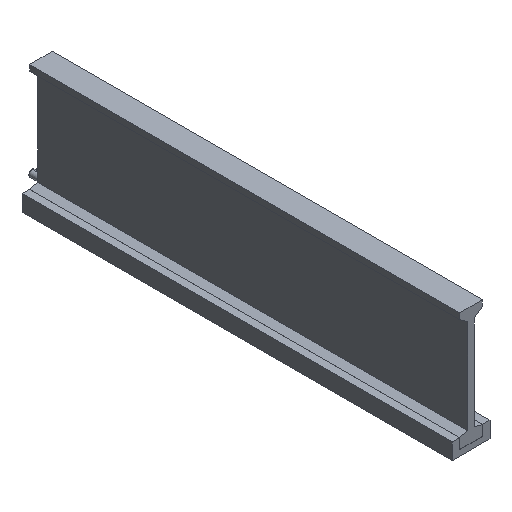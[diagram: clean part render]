
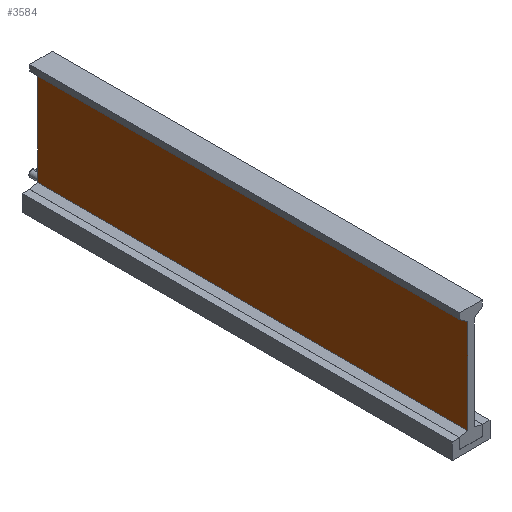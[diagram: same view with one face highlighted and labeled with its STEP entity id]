
A CAD part, isometric view. The second image highlights one B-rep face of the part: STEP entity #3584.
In plain terms, the highlighted planar face has unit normal (-1, 0, 0) as drawn and (1, 0, 0) by its records, which use the part's own axes.
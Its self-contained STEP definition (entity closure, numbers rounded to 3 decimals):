
#102 = EDGE_CURVE ( 'NONE', #2693, #2911, #2996, .T. ) ;
#664 = VECTOR ( 'NONE', #6174, 1000. ) ;
#759 = DIRECTION ( 'NONE',  ( 0., 1., 0. ) ) ;
#983 = DIRECTION ( 'NONE',  ( 0., 0., -1. ) ) ;
#1101 = CARTESIAN_POINT ( 'NONE',  ( 21.35, 17.11, 625. ) ) ;
#1152 = FACE_OUTER_BOUND ( 'NONE', #5078, .T. ) ;
#1434 = DIRECTION ( 'NONE',  ( 0., 0., 1. ) ) ;
#2241 = VERTEX_POINT ( 'NONE', #4289 ) ;
#2259 = CARTESIAN_POINT ( 'NONE',  ( 21.35, 154.11, 0. ) ) ;
#2428 = CARTESIAN_POINT ( 'NONE',  ( 21.35, 17.11, 625. ) ) ;
#2569 = EDGE_CURVE ( 'NONE', #2241, #5300, #4709, .T. ) ;
#2632 = DIRECTION ( 'NONE',  ( -1., 0., 0. ) ) ;
#2693 = VERTEX_POINT ( 'NONE', #4877 ) ;
#2731 = EDGE_CURVE ( 'NONE', #2693, #2241, #3048, .T. ) ;
#2911 = VERTEX_POINT ( 'NONE', #6911 ) ;
#2923 = DIRECTION ( 'NONE',  ( 0., 1., 0. ) ) ;
#2996 = LINE ( 'NONE', #4273, #664 ) ;
#3048 = LINE ( 'NONE', #1101, #4930 ) ;
#3295 = CARTESIAN_POINT ( 'NONE',  ( 21.35, 17.11, 0. ) ) ;
#3584 = ADVANCED_FACE ( 'NONE', ( #1152 ), #8080, .F. ) ;
#3949 = ORIENTED_EDGE ( 'NONE', *, *, #6253, .T. ) ;
#4034 = CARTESIAN_POINT ( 'NONE',  ( 21.35, 154.11, 625. ) ) ;
#4273 = CARTESIAN_POINT ( 'NONE',  ( 21.35, 17.11, 625. ) ) ;
#4289 = CARTESIAN_POINT ( 'NONE',  ( 21.35, 154.11, 625. ) ) ;
#4709 = LINE ( 'NONE', #4034, #5705 ) ;
#4877 = CARTESIAN_POINT ( 'NONE',  ( 21.35, 17.11, 625. ) ) ;
#4930 = VECTOR ( 'NONE', #2923, 1000. ) ;
#5020 = ORIENTED_EDGE ( 'NONE', *, *, #2731, .F. ) ;
#5078 = EDGE_LOOP ( 'NONE', ( #3949, #7796, #5020, #5183 ) ) ;
#5183 = ORIENTED_EDGE ( 'NONE', *, *, #102, .T. ) ;
#5300 = VERTEX_POINT ( 'NONE', #2259 ) ;
#5705 = VECTOR ( 'NONE', #983, 1000. ) ;
#6174 = DIRECTION ( 'NONE',  ( 0., 0., -1. ) ) ;
#6253 = EDGE_CURVE ( 'NONE', #2911, #5300, #6499, .T. ) ;
#6430 = AXIS2_PLACEMENT_3D ( 'NONE', #2428, #2632, #1434 ) ;
#6499 = LINE ( 'NONE', #3295, #7579 ) ;
#6911 = CARTESIAN_POINT ( 'NONE',  ( 21.35, 17.11, 0. ) ) ;
#7579 = VECTOR ( 'NONE', #759, 1000. ) ;
#7796 = ORIENTED_EDGE ( 'NONE', *, *, #2569, .F. ) ;
#8080 = PLANE ( 'NONE',  #6430 ) ;
